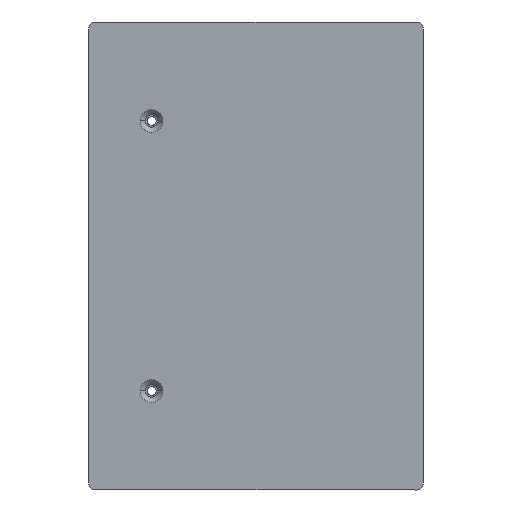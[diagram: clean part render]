
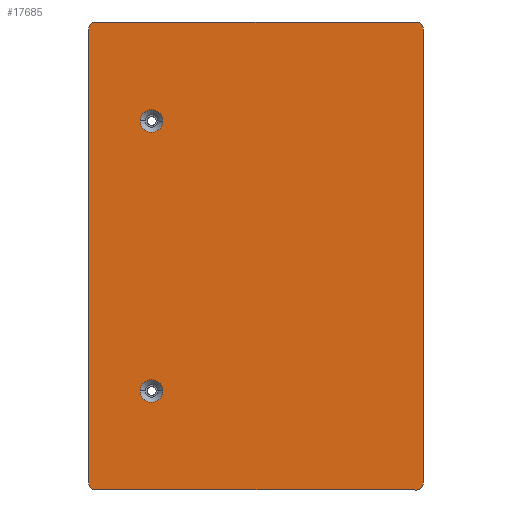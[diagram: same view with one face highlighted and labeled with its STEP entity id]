
A CAD part, left-side view. The second image highlights one B-rep face of the part: STEP entity #17685.
In plain terms, the highlighted planar face has unit normal (-1, 0, 0) as drawn and (0, -1, 0) by its records, which use the part's own axes.
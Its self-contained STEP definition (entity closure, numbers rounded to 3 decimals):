
#301 = CARTESIAN_POINT ( 'NONE',  ( 63., 0., 44.5 ) ) ;
#328 = EDGE_LOOP ( 'NONE', ( #8239, #15106, #6289, #3359, #9361, #11502, #20920, #9133 ) ) ;
#497 = VECTOR ( 'NONE', #15138, 1000. ) ;
#764 = CIRCLE ( 'NONE', #8201, 3.15 ) ;
#816 = CARTESIAN_POINT ( 'NONE',  ( 37.5, 0., -29. ) ) ;
#889 = DIRECTION ( 'NONE',  ( 0., -1., 0. ) ) ;
#1305 = DIRECTION ( 'NONE',  ( -1., 0., 0. ) ) ;
#1454 = CARTESIAN_POINT ( 'NONE',  ( 63., 0., -44.5 ) ) ;
#1712 = CIRCLE ( 'NONE', #12650, 3.15 ) ;
#1794 = PLANE ( 'NONE',  #4598 ) ;
#1833 = DIRECTION ( 'NONE',  ( 0., -1., 0. ) ) ;
#1942 = DIRECTION ( 'NONE',  ( 0., 0., 1. ) ) ;
#2073 = CARTESIAN_POINT ( 'NONE',  ( -65., 0., 46.5 ) ) ;
#2096 = CARTESIAN_POINT ( 'NONE',  ( -63., 0., 44.5 ) ) ;
#2465 = EDGE_CURVE ( 'NONE', #9591, #4801, #4078, .T. ) ;
#3011 = DIRECTION ( 'NONE',  ( 0., -1., 0. ) ) ;
#3118 = CARTESIAN_POINT ( 'NONE',  ( 63., 0., -46.5 ) ) ;
#3359 = ORIENTED_EDGE ( 'NONE', *, *, #11596, .T. ) ;
#3488 = CIRCLE ( 'NONE', #11731, 2. ) ;
#4078 = LINE ( 'NONE', #19202, #8906 ) ;
#4084 = DIRECTION ( 'NONE',  ( 0., -1., 0. ) ) ;
#4244 = EDGE_CURVE ( 'NONE', #14445, #14891, #1712, .T. ) ;
#4581 = CARTESIAN_POINT ( 'NONE',  ( -63., 0., -46.5 ) ) ;
#4598 = AXIS2_PLACEMENT_3D ( 'NONE', #15001, #5134, #13076 ) ;
#4791 = AXIS2_PLACEMENT_3D ( 'NONE', #7524, #889, #10779 ) ;
#4801 = VERTEX_POINT ( 'NONE', #10714 ) ;
#4858 = LINE ( 'NONE', #20306, #6669 ) ;
#5099 = EDGE_CURVE ( 'NONE', #9591, #14371, #15881, .T. ) ;
#5132 = EDGE_CURVE ( 'NONE', #16467, #16247, #3488, .T. ) ;
#5134 = DIRECTION ( 'NONE',  ( 0., 1., 0. ) ) ;
#5142 = DIRECTION ( 'NONE',  ( 0., -1., 0. ) ) ;
#5186 = DIRECTION ( 'NONE',  ( 0., -1., 0. ) ) ;
#5296 = DIRECTION ( 'NONE',  ( 0., -1., 0. ) ) ;
#5415 = ORIENTED_EDGE ( 'NONE', *, *, #18173, .F. ) ;
#6274 = CARTESIAN_POINT ( 'NONE',  ( 65., 0., -44.5 ) ) ;
#6289 = ORIENTED_EDGE ( 'NONE', *, *, #20513, .F. ) ;
#6503 = CARTESIAN_POINT ( 'NONE',  ( -65., 0., -44.5 ) ) ;
#6632 = AXIS2_PLACEMENT_3D ( 'NONE', #1454, #3011, #12677 ) ;
#6669 = VECTOR ( 'NONE', #1305, 1000. ) ;
#7495 = AXIS2_PLACEMENT_3D ( 'NONE', #10123, #5186, #13419 ) ;
#7524 = CARTESIAN_POINT ( 'NONE',  ( -37.5, 0., -29. ) ) ;
#7646 = LINE ( 'NONE', #2073, #497 ) ;
#7874 = CARTESIAN_POINT ( 'NONE',  ( -37.5, 0., -32.15 ) ) ;
#8201 = AXIS2_PLACEMENT_3D ( 'NONE', #816, #4084, #12375 ) ;
#8239 = ORIENTED_EDGE ( 'NONE', *, *, #9832, .F. ) ;
#8377 = CARTESIAN_POINT ( 'NONE',  ( 37.5, 0., -29. ) ) ;
#8518 = VERTEX_POINT ( 'NONE', #6274 ) ;
#8623 = EDGE_LOOP ( 'NONE', ( #15089, #5415 ) ) ;
#8906 = VECTOR ( 'NONE', #12765, 1000. ) ;
#9133 = ORIENTED_EDGE ( 'NONE', *, *, #14348, .T. ) ;
#9323 = CIRCLE ( 'NONE', #10148, 2. ) ;
#9361 = ORIENTED_EDGE ( 'NONE', *, *, #2465, .F. ) ;
#9591 = VERTEX_POINT ( 'NONE', #6503 ) ;
#9832 = EDGE_CURVE ( 'NONE', #16467, #8518, #15702, .T. ) ;
#10123 = CARTESIAN_POINT ( 'NONE',  ( -37.5, 0., -29. ) ) ;
#10148 = AXIS2_PLACEMENT_3D ( 'NONE', #2096, #5296, #13529 ) ;
#10188 = EDGE_CURVE ( 'NONE', #15839, #13502, #15159, .T. ) ;
#10714 = CARTESIAN_POINT ( 'NONE',  ( -65., 0., 44.5 ) ) ;
#10779 = DIRECTION ( 'NONE',  ( 0., 0., -1. ) ) ;
#11502 = ORIENTED_EDGE ( 'NONE', *, *, #5099, .T. ) ;
#11596 = EDGE_CURVE ( 'NONE', #16210, #4801, #9323, .T. ) ;
#11608 = DIRECTION ( 'NONE',  ( 0., -1., 0. ) ) ;
#11731 = AXIS2_PLACEMENT_3D ( 'NONE', #301, #11608, #1942 ) ;
#12375 = DIRECTION ( 'NONE',  ( 0., 0., -1. ) ) ;
#12650 = AXIS2_PLACEMENT_3D ( 'NONE', #8377, #1833, #17912 ) ;
#12677 = DIRECTION ( 'NONE',  ( 0., 0., 1. ) ) ;
#12765 = DIRECTION ( 'NONE',  ( 0., 0., 1. ) ) ;
#13076 = DIRECTION ( 'NONE',  ( 0., 0., 1. ) ) ;
#13419 = DIRECTION ( 'NONE',  ( 0., 0., -1. ) ) ;
#13492 = CIRCLE ( 'NONE', #6632, 2. ) ;
#13502 = VERTEX_POINT ( 'NONE', #14774 ) ;
#13529 = DIRECTION ( 'NONE',  ( 0., 0., 1. ) ) ;
#14348 = EDGE_CURVE ( 'NONE', #19623, #8518, #13492, .T. ) ;
#14371 = VERTEX_POINT ( 'NONE', #4581 ) ;
#14445 = VERTEX_POINT ( 'NONE', #18025 ) ;
#14774 = CARTESIAN_POINT ( 'NONE',  ( -37.5, 0., -25.85 ) ) ;
#14891 = VERTEX_POINT ( 'NONE', #19361 ) ;
#14922 = FACE_OUTER_BOUND ( 'NONE', #328, .T. ) ;
#15001 = CARTESIAN_POINT ( 'NONE',  ( 0., 0., 0. ) ) ;
#15089 = ORIENTED_EDGE ( 'NONE', *, *, #10188, .F. ) ;
#15106 = ORIENTED_EDGE ( 'NONE', *, *, #5132, .T. ) ;
#15138 = DIRECTION ( 'NONE',  ( 1., 0., 0. ) ) ;
#15159 = CIRCLE ( 'NONE', #4791, 3.15 ) ;
#15204 = VECTOR ( 'NONE', #16168, 1000. ) ;
#15702 = LINE ( 'NONE', #15959, #15204 ) ;
#15798 = ORIENTED_EDGE ( 'NONE', *, *, #20141, .F. ) ;
#15839 = VERTEX_POINT ( 'NONE', #7874 ) ;
#15881 = CIRCLE ( 'NONE', #17992, 2. ) ;
#15959 = CARTESIAN_POINT ( 'NONE',  ( 65., 0., -46.5 ) ) ;
#16168 = DIRECTION ( 'NONE',  ( 0., 0., -1. ) ) ;
#16187 = CIRCLE ( 'NONE', #7495, 3.15 ) ;
#16210 = VERTEX_POINT ( 'NONE', #18567 ) ;
#16247 = VERTEX_POINT ( 'NONE', #20431 ) ;
#16467 = VERTEX_POINT ( 'NONE', #19364 ) ;
#16883 = ORIENTED_EDGE ( 'NONE', *, *, #4244, .F. ) ;
#17685 = ADVANCED_FACE ( 'NONE', ( #19284, #19775, #14922 ), #1794, .F. ) ;
#17912 = DIRECTION ( 'NONE',  ( 0., 0., -1. ) ) ;
#17992 = AXIS2_PLACEMENT_3D ( 'NONE', #18017, #5142, #18087 ) ;
#18017 = CARTESIAN_POINT ( 'NONE',  ( -63., 0., -44.5 ) ) ;
#18025 = CARTESIAN_POINT ( 'NONE',  ( 37.5, 0., -32.15 ) ) ;
#18087 = DIRECTION ( 'NONE',  ( 0., 0., 1. ) ) ;
#18173 = EDGE_CURVE ( 'NONE', #13502, #15839, #16187, .T. ) ;
#18567 = CARTESIAN_POINT ( 'NONE',  ( -63., 0., 46.5 ) ) ;
#18887 = EDGE_CURVE ( 'NONE', #19623, #14371, #4858, .T. ) ;
#19202 = CARTESIAN_POINT ( 'NONE',  ( -65., 0., -46.5 ) ) ;
#19284 = FACE_BOUND ( 'NONE', #20804, .T. ) ;
#19361 = CARTESIAN_POINT ( 'NONE',  ( 37.5, 0., -25.85 ) ) ;
#19364 = CARTESIAN_POINT ( 'NONE',  ( 65., 0., 44.5 ) ) ;
#19623 = VERTEX_POINT ( 'NONE', #3118 ) ;
#19775 = FACE_BOUND ( 'NONE', #8623, .T. ) ;
#20141 = EDGE_CURVE ( 'NONE', #14891, #14445, #764, .T. ) ;
#20306 = CARTESIAN_POINT ( 'NONE',  ( -65., 0., -46.5 ) ) ;
#20431 = CARTESIAN_POINT ( 'NONE',  ( 63., 0., 46.5 ) ) ;
#20513 = EDGE_CURVE ( 'NONE', #16210, #16247, #7646, .T. ) ;
#20804 = EDGE_LOOP ( 'NONE', ( #16883, #15798 ) ) ;
#20920 = ORIENTED_EDGE ( 'NONE', *, *, #18887, .F. ) ;
